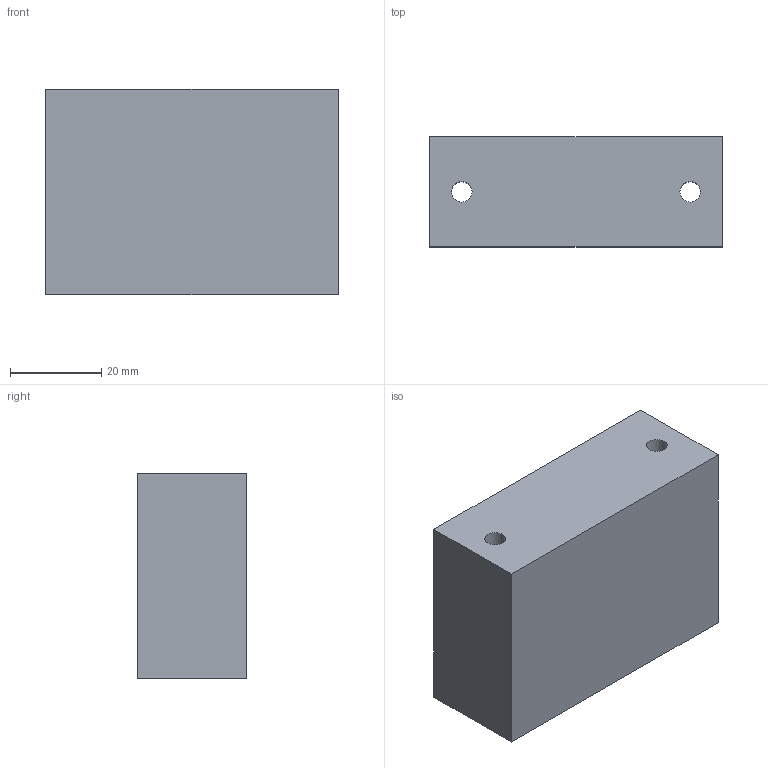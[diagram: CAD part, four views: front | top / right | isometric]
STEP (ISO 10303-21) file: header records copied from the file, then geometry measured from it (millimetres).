
FILE_DESCRIPTION(('Open CASCADE Model'),'2;1');
FILE_NAME('Open CASCADE Shape Model','2026-10-21T17:23:52',('Author'),( 'Open CASCADE'),'Open CASCADE STEP processor 7.9','Open CASCADE 7.9' ,'Unknown');
FILE_SCHEMA(('AUTOMOTIVE_DESIGN { 1 0 10303 214 1 1 1 1 }'));
Length unit declared in the file: millimetre
Products named in the file (1): Open CASCADE STEP translator 7.9 55
Bounding box: 64 x 24 x 45 mm (x, y, z)
Volume: 67688.6 mm3; surface area: 12200.7 mm2
Topology: 1 solids, 1 shells, 8 faces, 18 edges, 12 vertices
Faces by surface type: plane 6, cylinder 2
Full cylindrical faces by diameter (mm): 4.5 x2
Entity records: 490 total; most frequent: CARTESIAN_POINT 99, DIRECTION 72, LINE 46, VECTOR 46, ORIENTED_EDGE 36, PCURVE 36, DEFINITIONAL_REPRESENTATION 36, EDGE_CURVE 18
